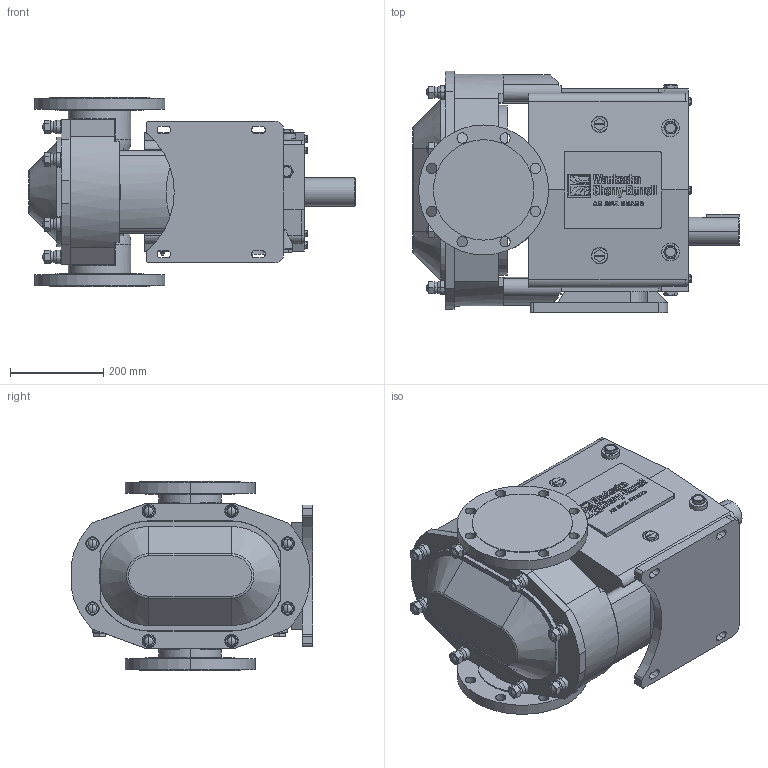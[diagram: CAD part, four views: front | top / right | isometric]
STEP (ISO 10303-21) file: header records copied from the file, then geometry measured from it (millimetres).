
FILE_DESCRIPTION (( 'STEP AP203' ), '1' );
FILE_NAME ('Joined_320_U2_Lower Shaft.STEP', '2008-03-25T15:29:39', ( ' ' ), ( ' ' ), 'SwSTEP 2.0', 'SolidWorks 2006104', '' );
FILE_SCHEMA (( 'CONFIG_CONTROL_DESIGN' ));
Length unit declared in the file: inch
Products named in the file (1): Joined_320_U2_Lower Shaft
Bounding box: 701.88 x 519.02 x 406.4 mm (x, y, z)
Volume: 63754780.7 mm3; surface area: 1733446.8 mm2
Topology: 1 solids, 31 shells, 1492 faces, 3651 edges, 2320 vertices
Faces by surface type: plane 766, cylinder 349, cone 231, bspline 100, torus 30, sphere 16
Entity records: 49256 total; most frequent: CARTESIAN_POINT 14785, ORIENTED_EDGE 7182, DIRECTION 6808, EDGE_CURVE 3591, VERTEX_POINT 2320, AXIS2_PLACEMENT_3D 2315, VECTOR 2178, LINE 2178
